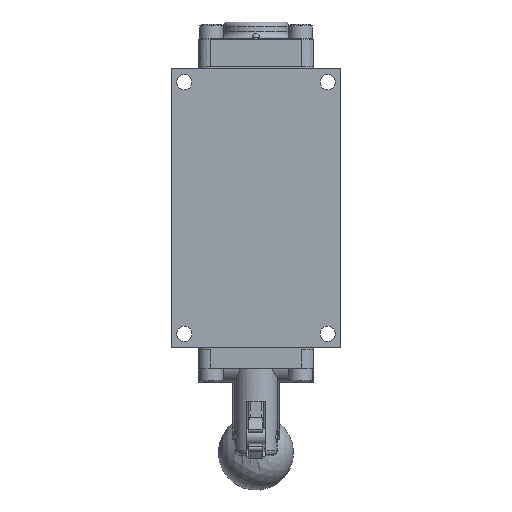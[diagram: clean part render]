
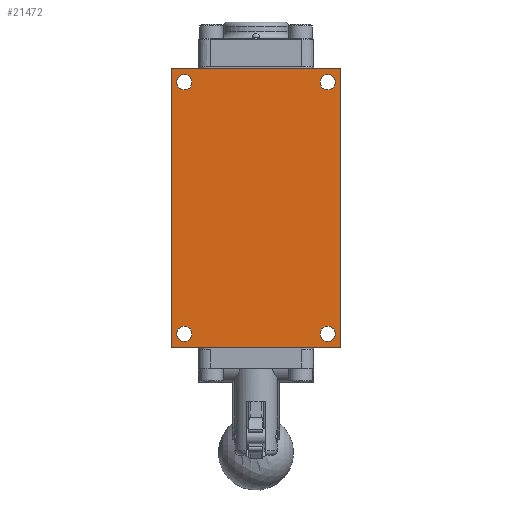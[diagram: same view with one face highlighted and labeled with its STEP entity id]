
A CAD part, front view. The second image highlights one B-rep face of the part: STEP entity #21472.
In plain terms, the highlighted planar face has unit normal (0, -1, 0).
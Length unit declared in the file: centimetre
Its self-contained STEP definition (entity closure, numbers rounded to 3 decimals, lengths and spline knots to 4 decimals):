
#1360=FACE_BOUND('',#3370,.T.);
#1361=FACE_BOUND('',#3371,.T.);
#1362=FACE_BOUND('',#3372,.T.);
#1363=FACE_BOUND('',#3373,.T.);
#2069=FACE_OUTER_BOUND('',#3369,.T.);
#3369=EDGE_LOOP('',(#16114,#16115,#16116,#16117));
#3370=EDGE_LOOP('',(#16118));
#3371=EDGE_LOOP('',(#16119));
#3372=EDGE_LOOP('',(#16120));
#3373=EDGE_LOOP('',(#16121));
#4667=CIRCLE('',#23362,0.2578);
#4668=CIRCLE('',#23363,0.2578);
#4669=CIRCLE('',#23364,0.2578);
#4670=CIRCLE('',#23365,0.2578);
#5706=LINE('',#35864,#7240);
#5707=LINE('',#35866,#7241);
#5708=LINE('',#35868,#7242);
#5709=LINE('',#35869,#7243);
#7240=VECTOR('',#27366,1.);
#7241=VECTOR('',#27367,1.);
#7242=VECTOR('',#27368,1.);
#7243=VECTOR('',#27369,1.);
#9081=VERTEX_POINT('',#35862);
#9082=VERTEX_POINT('',#35863);
#9083=VERTEX_POINT('',#35865);
#9084=VERTEX_POINT('',#35867);
#9085=VERTEX_POINT('',#35870);
#9086=VERTEX_POINT('',#35872);
#9087=VERTEX_POINT('',#35874);
#9088=VERTEX_POINT('',#35876);
#11595=EDGE_CURVE('',#9081,#9082,#5706,.T.);
#11596=EDGE_CURVE('',#9083,#9081,#5707,.T.);
#11597=EDGE_CURVE('',#9084,#9083,#5708,.T.);
#11598=EDGE_CURVE('',#9082,#9084,#5709,.T.);
#11599=EDGE_CURVE('',#9085,#9085,#4667,.T.);
#11600=EDGE_CURVE('',#9086,#9086,#4668,.T.);
#11601=EDGE_CURVE('',#9087,#9087,#4669,.T.);
#11602=EDGE_CURVE('',#9088,#9088,#4670,.T.);
#16114=ORIENTED_EDGE('',*,*,#11595,.F.);
#16115=ORIENTED_EDGE('',*,*,#11596,.F.);
#16116=ORIENTED_EDGE('',*,*,#11597,.F.);
#16117=ORIENTED_EDGE('',*,*,#11598,.F.);
#16118=ORIENTED_EDGE('',*,*,#11599,.T.);
#16119=ORIENTED_EDGE('',*,*,#11600,.T.);
#16120=ORIENTED_EDGE('',*,*,#11601,.T.);
#16121=ORIENTED_EDGE('',*,*,#11602,.T.);
#19331=PLANE('',#23361);
#21472=ADVANCED_FACE('',(#2069,#1360,#1361,#1362,#1363),#19331,.F.);
#23361=AXIS2_PLACEMENT_3D('',#35861,#27364,#27365);
#23362=AXIS2_PLACEMENT_3D('',#35871,#27370,#27371);
#23363=AXIS2_PLACEMENT_3D('',#35873,#27372,#27373);
#23364=AXIS2_PLACEMENT_3D('',#35875,#27374,#27375);
#23365=AXIS2_PLACEMENT_3D('',#35877,#27376,#27377);
#27364=DIRECTION('center_axis',(0.,1.,0.));
#27365=DIRECTION('ref_axis',(0.,0.,1.));
#27366=DIRECTION('',(0.,0.,1.));
#27367=DIRECTION('',(-1.,0.,0.));
#27368=DIRECTION('',(0.,0.,-1.));
#27369=DIRECTION('',(1.,0.,0.));
#27370=DIRECTION('center_axis',(0.,1.,0.));
#27371=DIRECTION('ref_axis',(-1.,0.,0.));
#27372=DIRECTION('center_axis',(0.,1.,0.));
#27373=DIRECTION('ref_axis',(-1.,0.,0.));
#27374=DIRECTION('center_axis',(0.,1.,0.));
#27375=DIRECTION('ref_axis',(-1.,0.,0.));
#27376=DIRECTION('center_axis',(0.,1.,0.));
#27377=DIRECTION('ref_axis',(-1.,0.,0.));
#35861=CARTESIAN_POINT('Origin',(0.,-1.6358,0.));
#35862=CARTESIAN_POINT('',(-2.8575,-1.6358,-4.7104));
#35863=CARTESIAN_POINT('',(-2.8575,-1.6358,4.7104));
#35864=CARTESIAN_POINT('',(-2.8575,-1.6358,-4.7104));
#35865=CARTESIAN_POINT('',(2.8575,-1.6358,-4.7104));
#35866=CARTESIAN_POINT('',(2.8575,-1.6358,-4.7104));
#35867=CARTESIAN_POINT('',(2.8575,-1.6358,4.7104));
#35868=CARTESIAN_POINT('',(2.8575,-1.6358,4.7104));
#35869=CARTESIAN_POINT('',(-2.8575,-1.6358,4.7104));
#35870=CARTESIAN_POINT('',(-2.1628,-1.6358,-4.2469));
#35871=CARTESIAN_POINT('Origin',(-2.4206,-1.6358,-4.2469));
#35872=CARTESIAN_POINT('',(-2.1628,-1.6358,4.2469));
#35873=CARTESIAN_POINT('Origin',(-2.4206,-1.6358,4.2469));
#35874=CARTESIAN_POINT('',(2.6784,-1.6358,-4.2469));
#35875=CARTESIAN_POINT('Origin',(2.4206,-1.6358,-4.2469));
#35876=CARTESIAN_POINT('',(2.6784,-1.6358,4.2469));
#35877=CARTESIAN_POINT('Origin',(2.4206,-1.6358,4.2469));
